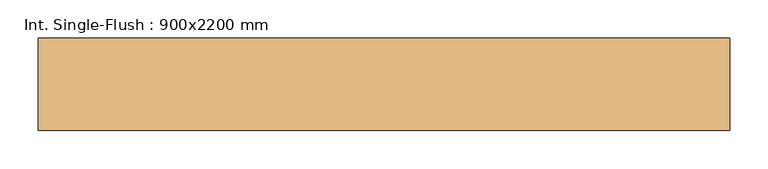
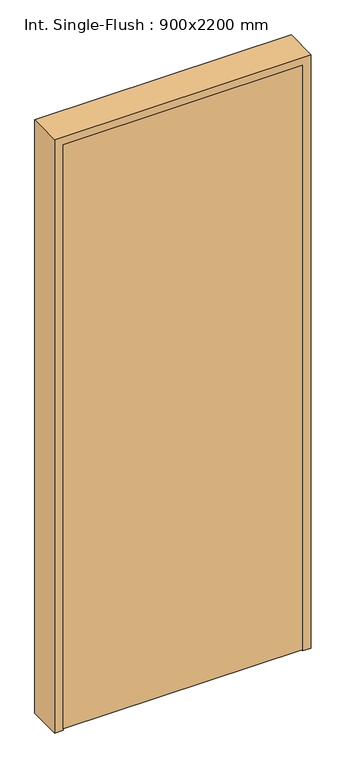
"""IFC4 building model written with IfcOpenShell, lengths in millimetres: door geometry, Int. Single-Flush : 900x2200 mm."""

from ifc_helpers import new_model, si_unit, frame, origin, place, context, project, spatial, polyline, outline, extrude, faceted_brep, source, transform, mapped, element, save


def int_single_flush_900x2200_mm_8e8544e1(model_context):
    return source(origin(), model_context, "Body", "SolidModel", [
        extrude(outline(polyline([(420.0, -20.0), (420.0, -60.0), (-420.0, -60.0), (-420.0, -20.0), (420.0, -20.0)])), frame((0.0, 0.0, 5.0), z_axis=(0.0, 0.0, 1.0), x_axis=(1.0, 0.0, 0.0)), (0.0, 0.0, 1.0), 2165.0),
        faceted_brep([(-420.0, -60.0, 0.0), (-450.0, -60.0, 0.0), (-450.0, 60.0, 0.0), (-408.0, 60.0, 0.0), (-408.0, -20.0, 0.0), (-420.0, -20.0, 0.0), (-420.0, -20.0, 2170.0), (-420.0, -60.0, 2170.0), (-408.0, -20.0, 2158.0), (408.0, -20.0, 2158.0), (408.0, -20.0, 0.0), (420.0, -20.0, 0.0), (420.0, -20.0, 2170.0), (-408.0, 60.0, 2158.0), (-450.0, 60.0, 2200.0), (450.0, 60.0, 2200.0), (450.0, 60.0, 0.0), (408.0, 60.0, 0.0), (408.0, 60.0, 2158.0), (-450.0, -60.0, 2200.0), (420.0, -60.0, 2170.0), (420.0, -60.0, 0.0), (450.0, -60.0, 0.0), (450.0, -60.0, 2200.0)], [[[0, 1, 2, 3, 4, 5]], [[5, 6, 7, 0]], [[4, 8, 9, 10, 11, 12, 6, 5]], [[3, 13, 8, 4]], [[2, 14, 15, 16, 17, 18, 13, 3]], [[1, 19, 14, 2]], [[0, 7, 20, 21, 22, 23, 19, 1]], [[11, 21, 20, 12]], [[10, 17, 16, 22, 21, 11]], [[9, 18, 17, 10]], [[15, 23, 22, 16]], [[6, 12, 20, 7]], [[8, 13, 18, 9]], [[14, 19, 23, 15]]]),
    ])


if __name__ == "__main__":
    model = new_model("IFC4")
    model_context = context("Model", 3, world=origin())
    ifc_project = project(units=[si_unit("LENGTHUNIT", "METRE", prefix="MILLI")], contexts=[model_context])
    site = spatial("IfcSite", under=ifc_project)
    building = spatial("IfcBuilding", under=site)
    placement = place(None, origin())
    int_single_flush_900x2200_mm_shape = int_single_flush_900x2200_mm_8e8544e1(model_context)
    element("IfcDoor", 1, ObjectType="Int. Single-Flush : 900x2200 mm", at=placement, inside=building, context=model_context, shape_type="MappedRepresentation", body=[
        mapped(int_single_flush_900x2200_mm_shape, transform((0.0, 0.0, 0.0), x_axis=(1.0, 0.0, 0.0), y_axis=(0.0, 1.0, 0.0), z_axis=(0.0, 0.0, 1.0))),
    ])
    save(model, "model.ifc")
